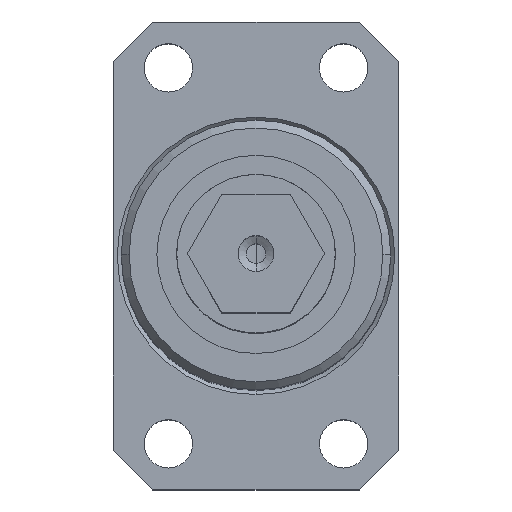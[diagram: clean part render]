
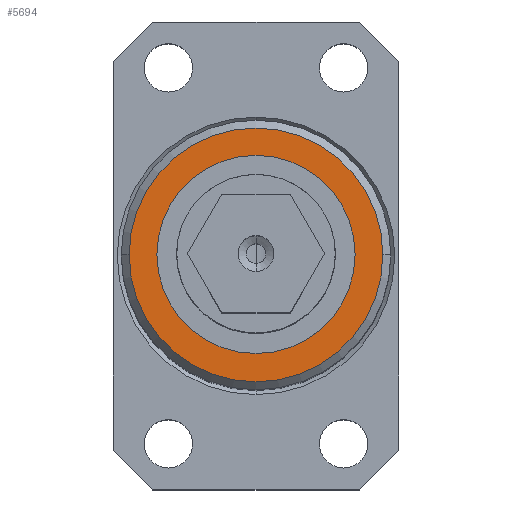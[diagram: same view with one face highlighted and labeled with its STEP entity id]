
A CAD part, top view. The second image highlights one B-rep face of the part: STEP entity #5694.
In plain terms, the highlighted planar face has unit normal (0, 0, 1).
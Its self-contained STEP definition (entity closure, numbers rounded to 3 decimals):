
#227 = FACE_OUTER_BOUND ( 'NONE', #8504, .T. ) ;
#263 = AXIS2_PLACEMENT_3D ( 'NONE', #5759, #8918, #2452 ) ;
#365 = CARTESIAN_POINT ( 'NONE',  ( 0., 0., 10. ) ) ;
#464 = EDGE_CURVE ( 'NONE', #4258, #7500, #1408, .T. ) ;
#826 = VERTEX_POINT ( 'NONE', #2075 ) ;
#968 = DIRECTION ( 'NONE',  ( -1., 0., 0. ) ) ;
#1309 = VERTEX_POINT ( 'NONE', #4999 ) ;
#1349 = DIRECTION ( 'NONE',  ( -1., 0., 0. ) ) ;
#1408 = CIRCLE ( 'NONE', #263, 20.2 ) ;
#1550 = ORIENTED_EDGE ( 'NONE', *, *, #6821, .F. ) ;
#1650 = AXIS2_PLACEMENT_3D ( 'NONE', #8330, #7598, #1349 ) ;
#1825 = FACE_BOUND ( 'NONE', #4485, .T. ) ;
#2075 = CARTESIAN_POINT ( 'NONE',  ( -32., 0., 10. ) ) ;
#2452 = DIRECTION ( 'NONE',  ( -1., 0., 0. ) ) ;
#2802 = PLANE ( 'NONE',  #1650 ) ;
#3060 = ORIENTED_EDGE ( 'NONE', *, *, #464, .F. ) ;
#3341 = CARTESIAN_POINT ( 'NONE',  ( 20.2, 0., 10. ) ) ;
#3692 = ORIENTED_EDGE ( 'NONE', *, *, #6208, .T. ) ;
#4258 = VERTEX_POINT ( 'NONE', #3341 ) ;
#4485 = EDGE_LOOP ( 'NONE', ( #1550, #3060 ) ) ;
#4499 = DIRECTION ( 'NONE',  ( 0., 0., 1. ) ) ;
#4620 = AXIS2_PLACEMENT_3D ( 'NONE', #6204, #4499, #7705 ) ;
#4624 = ORIENTED_EDGE ( 'NONE', *, *, #9761, .T. ) ;
#4965 = AXIS2_PLACEMENT_3D ( 'NONE', #8099, #6437, #968 ) ;
#4999 = CARTESIAN_POINT ( 'NONE',  ( 32., 0., 10. ) ) ;
#5112 = AXIS2_PLACEMENT_3D ( 'NONE', #365, #5839, #9678 ) ;
#5694 = ADVANCED_FACE ( 'NONE', ( #227, #1825 ), #2802, .F. ) ;
#5759 = CARTESIAN_POINT ( 'NONE',  ( 0., 0., 10. ) ) ;
#5839 = DIRECTION ( 'NONE',  ( 0., 0., 1. ) ) ;
#6204 = CARTESIAN_POINT ( 'NONE',  ( 0., 0., 10. ) ) ;
#6208 = EDGE_CURVE ( 'NONE', #1309, #826, #9590, .T. ) ;
#6437 = DIRECTION ( 'NONE',  ( 0., 0., 1. ) ) ;
#6773 = CIRCLE ( 'NONE', #4965, 20.2 ) ;
#6821 = EDGE_CURVE ( 'NONE', #7500, #4258, #6773, .T. ) ;
#7500 = VERTEX_POINT ( 'NONE', #9286 ) ;
#7598 = DIRECTION ( 'NONE',  ( 0., 0., -1. ) ) ;
#7705 = DIRECTION ( 'NONE',  ( -1., 0., 0. ) ) ;
#8099 = CARTESIAN_POINT ( 'NONE',  ( 0., 0., 10. ) ) ;
#8330 = CARTESIAN_POINT ( 'NONE',  ( 0., 0., 10. ) ) ;
#8504 = EDGE_LOOP ( 'NONE', ( #4624, #3692 ) ) ;
#8918 = DIRECTION ( 'NONE',  ( 0., 0., 1. ) ) ;
#9247 = CIRCLE ( 'NONE', #4620, 32. ) ;
#9286 = CARTESIAN_POINT ( 'NONE',  ( -20.2, 0., 10. ) ) ;
#9590 = CIRCLE ( 'NONE', #5112, 32. ) ;
#9678 = DIRECTION ( 'NONE',  ( -1., 0., 0. ) ) ;
#9761 = EDGE_CURVE ( 'NONE', #826, #1309, #9247, .T. ) ;
